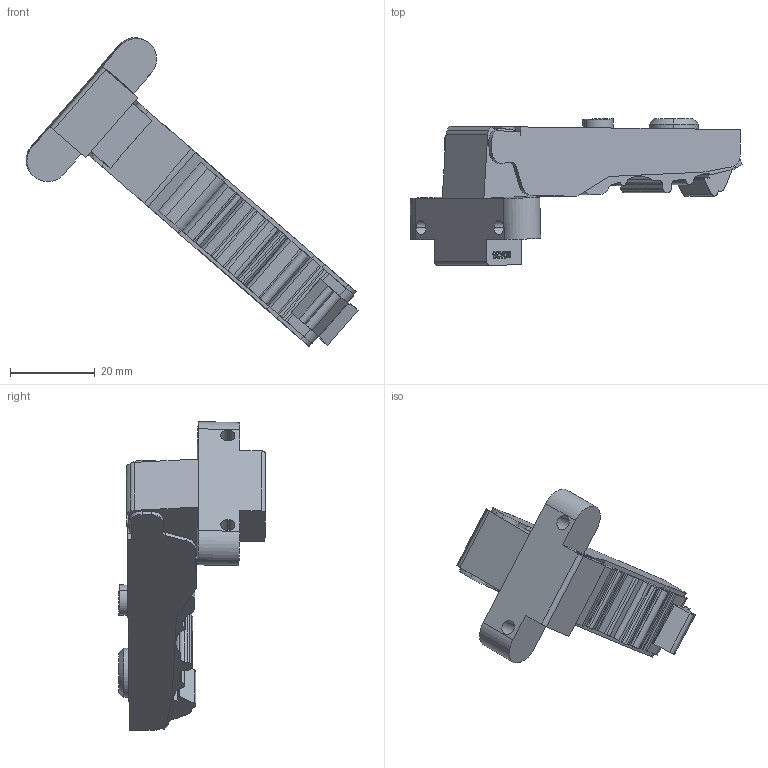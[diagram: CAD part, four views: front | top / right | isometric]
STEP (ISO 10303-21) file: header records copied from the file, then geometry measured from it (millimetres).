
FILE_DESCRIPTION (( 'STEP AP203' ), '1' );
FILE_NAME ('C82A678FA-DTC 3D close.STEP', '2025-07-21T02:27:08', ( '微软用户' ), ( '微软中国' ), 'SwSTEP 2.0', 'SolidWorks 2021', '' );
FILE_SCHEMA (( 'CONFIG_CONTROL_DESIGN' ));
Length unit declared in the file: millimetre
Products named in the file (1): C82A678FA-DTC 3D close
Bounding box: 78.39 x 34.68 x 72.88 mm (x, y, z)
Volume: 23959.1 mm3; surface area: 7844 mm2
Topology: 1 solids, 1 shells, 253 faces, 709 edges, 471 vertices
Faces by surface type: plane 122, cylinder 73, bspline 48, torus 8, cone 2
Entity records: 11039 total; most frequent: CARTESIAN_POINT 4700, ORIENTED_EDGE 1418, DIRECTION 1135, EDGE_CURVE 709, VERTEX_POINT 471, LINE 433, VECTOR 433, AXIS2_PLACEMENT_3D 351
